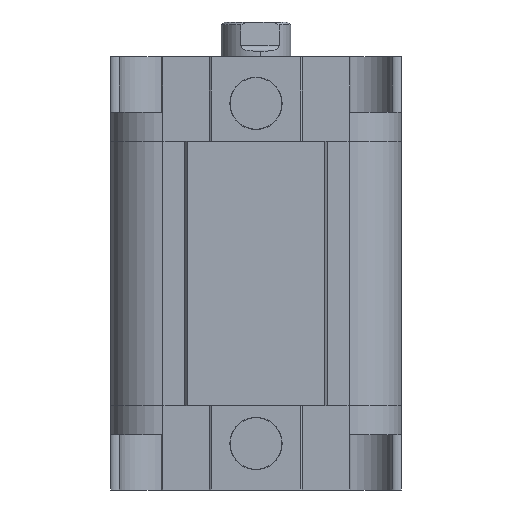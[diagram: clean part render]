
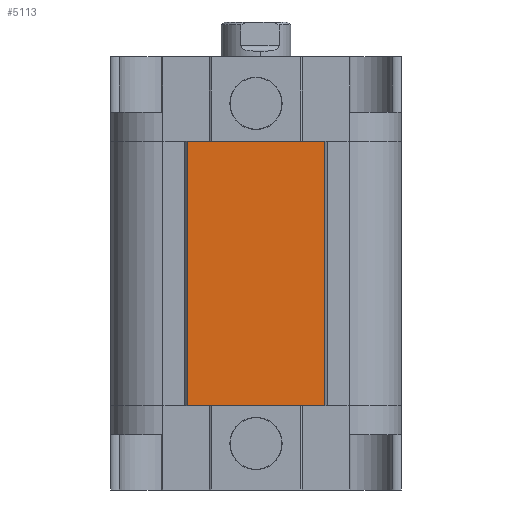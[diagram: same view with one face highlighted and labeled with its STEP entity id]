
A CAD part, front view. The second image highlights one B-rep face of the part: STEP entity #5113.
In plain terms, the highlighted planar face has unit normal (0, -1, 0).
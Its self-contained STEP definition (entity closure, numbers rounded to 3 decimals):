
#313 = VERTEX_POINT ( 'NONE', #9151 ) ;
#526 = CARTESIAN_POINT ( 'NONE',  ( 11.85, -27., 22.75 ) ) ;
#1594 = EDGE_CURVE ( 'NONE', #5923, #9195, #5818, .T. ) ;
#2025 = EDGE_CURVE ( 'NONE', #9279, #5923, #10957, .T. ) ;
#3398 = VECTOR ( 'NONE', #12049, 1000. ) ;
#4072 = VECTOR ( 'NONE', #4634, 1000. ) ;
#4477 = ORIENTED_EDGE ( 'NONE', *, *, #2025, .T. ) ;
#4634 = DIRECTION ( 'NONE',  ( 1., 0., 0. ) ) ;
#4652 = CARTESIAN_POINT ( 'NONE',  ( 0., -27., 0. ) ) ;
#5034 = CARTESIAN_POINT ( 'NONE',  ( -11.85, -27., 0. ) ) ;
#5113 = ADVANCED_FACE ( 'NONE', ( #5379 ), #10334, .T. ) ;
#5348 = AXIS2_PLACEMENT_3D ( 'NONE', #10330, #10276, #10252 ) ;
#5379 = FACE_OUTER_BOUND ( 'NONE', #12276, .T. ) ;
#5589 = ORIENTED_EDGE ( 'NONE', *, *, #1594, .T. ) ;
#5762 = EDGE_CURVE ( 'NONE', #9279, #313, #10968, .T. ) ;
#5818 = LINE ( 'NONE', #4652, #4072 ) ;
#5923 = VERTEX_POINT ( 'NONE', #5034 ) ;
#5971 = VECTOR ( 'NONE', #6095, 1000. ) ;
#6095 = DIRECTION ( 'NONE',  ( 1., 0., 0. ) ) ;
#6316 = CARTESIAN_POINT ( 'NONE',  ( 0., -27., 45.5 ) ) ;
#6460 = VECTOR ( 'NONE', #9650, 1000. ) ;
#7250 = ORIENTED_EDGE ( 'NONE', *, *, #5762, .F. ) ;
#9063 = LINE ( 'NONE', #526, #6460 ) ;
#9151 = CARTESIAN_POINT ( 'NONE',  ( 11.85, -27., 45.5 ) ) ;
#9195 = VERTEX_POINT ( 'NONE', #11313 ) ;
#9279 = VERTEX_POINT ( 'NONE', #12597 ) ;
#9650 = DIRECTION ( 'NONE',  ( 0., 0., -1. ) ) ;
#9850 = EDGE_CURVE ( 'NONE', #313, #9195, #9063, .T. ) ;
#10252 = DIRECTION ( 'NONE',  ( 0., 0., -1. ) ) ;
#10276 = DIRECTION ( 'NONE',  ( 0., -1., 0. ) ) ;
#10330 = CARTESIAN_POINT ( 'NONE',  ( -11.85, -27., 45.5 ) ) ;
#10334 = PLANE ( 'NONE',  #5348 ) ;
#10957 = LINE ( 'NONE', #11962, #3398 ) ;
#10968 = LINE ( 'NONE', #6316, #5971 ) ;
#11313 = CARTESIAN_POINT ( 'NONE',  ( 11.85, -27., 0. ) ) ;
#11962 = CARTESIAN_POINT ( 'NONE',  ( -11.85, -27., 22.75 ) ) ;
#12049 = DIRECTION ( 'NONE',  ( 0., 0., -1. ) ) ;
#12119 = ORIENTED_EDGE ( 'NONE', *, *, #9850, .F. ) ;
#12276 = EDGE_LOOP ( 'NONE', ( #7250, #4477, #5589, #12119 ) ) ;
#12597 = CARTESIAN_POINT ( 'NONE',  ( -11.85, -27., 45.5 ) ) ;
